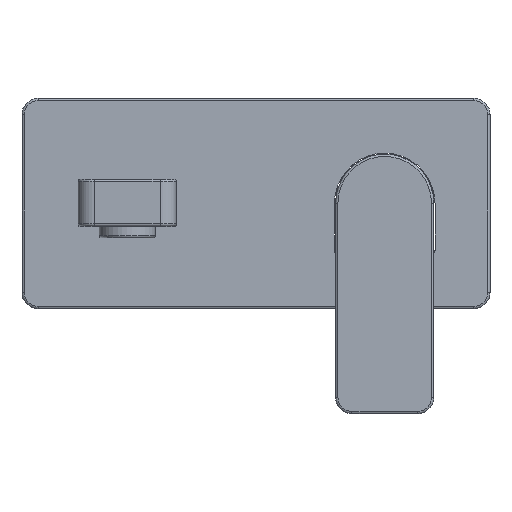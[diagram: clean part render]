
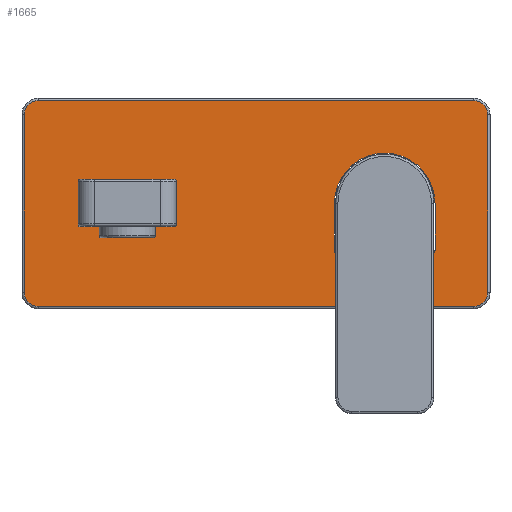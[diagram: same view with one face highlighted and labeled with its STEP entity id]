
A CAD part, top view. The second image highlights one B-rep face of the part: STEP entity #1665.
In plain terms, the highlighted planar face has unit normal (0, 0, 1).
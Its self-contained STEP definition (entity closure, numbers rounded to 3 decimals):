
#14=FACE_BOUND('',#563,.T.);
#66=PLANE('',#1906);
#145=LINE('',#2869,#264);
#149=LINE('',#2881,#268);
#152=LINE('',#2890,#271);
#170=LINE('',#2954,#289);
#172=LINE('',#2966,#291);
#174=LINE('',#2978,#293);
#175=LINE('',#2986,#294);
#264=VECTOR('',#2313,10.);
#268=VECTOR('',#2325,10.);
#271=VECTOR('',#2336,10.);
#289=VECTOR('',#2402,10.);
#291=VECTOR('',#2416,10.);
#293=VECTOR('',#2430,10.);
#294=VECTOR('',#2441,10.);
#455=FACE_OUTER_BOUND('',#562,.T.);
#562=EDGE_LOOP('',(#1498,#1499,#1500,#1501,#1502,#1503,#1504,#1505));
#563=EDGE_LOOP('',(#1506,#1507,#1508,#1509,#1510,#1511));
#652=CIRCLE('',#1849,1.5);
#654=CIRCLE('',#1853,21.5);
#656=CIRCLE('',#1857,1.5);
#666=CIRCLE('',#1878,6.);
#672=CIRCLE('',#1886,6.);
#676=CIRCLE('',#1892,6.);
#680=CIRCLE('',#1898,6.);
#780=VERTEX_POINT('',#2859);
#781=VERTEX_POINT('',#2861);
#783=VERTEX_POINT('',#2867);
#785=VERTEX_POINT('',#2873);
#787=VERTEX_POINT('',#2879);
#789=VERTEX_POINT('',#2885);
#807=VERTEX_POINT('',#2942);
#808=VERTEX_POINT('',#2944);
#810=VERTEX_POINT('',#2950);
#812=VERTEX_POINT('',#2956);
#814=VERTEX_POINT('',#2962);
#816=VERTEX_POINT('',#2968);
#818=VERTEX_POINT('',#2974);
#820=VERTEX_POINT('',#2980);
#988=EDGE_CURVE('',#781,#780,#652,.T.);
#992=EDGE_CURVE('',#780,#783,#145,.T.);
#995=EDGE_CURVE('',#783,#785,#654,.T.);
#998=EDGE_CURVE('',#785,#787,#149,.T.);
#1001=EDGE_CURVE('',#787,#789,#656,.T.);
#1003=EDGE_CURVE('',#789,#781,#152,.T.);
#1029=EDGE_CURVE('',#807,#808,#666,.T.);
#1034=EDGE_CURVE('',#808,#810,#170,.T.);
#1037=EDGE_CURVE('',#810,#812,#672,.T.);
#1040=EDGE_CURVE('',#812,#814,#172,.T.);
#1043=EDGE_CURVE('',#814,#816,#676,.T.);
#1046=EDGE_CURVE('',#816,#818,#174,.T.);
#1049=EDGE_CURVE('',#818,#820,#680,.T.);
#1050=EDGE_CURVE('',#820,#807,#175,.T.);
#1498=ORIENTED_EDGE('',*,*,#1029,.F.);
#1499=ORIENTED_EDGE('',*,*,#1050,.F.);
#1500=ORIENTED_EDGE('',*,*,#1049,.F.);
#1501=ORIENTED_EDGE('',*,*,#1046,.F.);
#1502=ORIENTED_EDGE('',*,*,#1043,.F.);
#1503=ORIENTED_EDGE('',*,*,#1040,.F.);
#1504=ORIENTED_EDGE('',*,*,#1037,.F.);
#1505=ORIENTED_EDGE('',*,*,#1034,.F.);
#1506=ORIENTED_EDGE('',*,*,#995,.T.);
#1507=ORIENTED_EDGE('',*,*,#998,.T.);
#1508=ORIENTED_EDGE('',*,*,#1001,.T.);
#1509=ORIENTED_EDGE('',*,*,#1003,.T.);
#1510=ORIENTED_EDGE('',*,*,#988,.T.);
#1511=ORIENTED_EDGE('',*,*,#992,.T.);
#1665=ADVANCED_FACE('',(#455,#14),#66,.T.);
#1849=AXIS2_PLACEMENT_3D('',#2862,#2306,#2307);
#1853=AXIS2_PLACEMENT_3D('',#2875,#2319,#2320);
#1857=AXIS2_PLACEMENT_3D('',#2887,#2331,#2332);
#1878=AXIS2_PLACEMENT_3D('',#2945,#2391,#2392);
#1886=AXIS2_PLACEMENT_3D('',#2960,#2409,#2410);
#1892=AXIS2_PLACEMENT_3D('',#2972,#2423,#2424);
#1898=AXIS2_PLACEMENT_3D('',#2984,#2437,#2438);
#1906=AXIS2_PLACEMENT_3D('',#3006,#2462,#2463);
#2306=DIRECTION('center_axis',(0.,0.,-1.));
#2307=DIRECTION('ref_axis',(0.,-1.,0.));
#2313=DIRECTION('',(0.,1.,0.));
#2319=DIRECTION('center_axis',(0.,0.,-1.));
#2320=DIRECTION('ref_axis',(-1.,0.,0.));
#2325=DIRECTION('',(0.,-1.,0.));
#2331=DIRECTION('center_axis',(0.,0.,-1.));
#2332=DIRECTION('ref_axis',(1.,0.,0.));
#2336=DIRECTION('',(-1.,0.,0.));
#2391=DIRECTION('center_axis',(0.,0.,-1.));
#2392=DIRECTION('ref_axis',(-0.707,0.707,0.));
#2402=DIRECTION('',(1.,0.,0.));
#2409=DIRECTION('center_axis',(0.,0.,-1.));
#2410=DIRECTION('ref_axis',(0.707,0.707,0.));
#2416=DIRECTION('',(0.,-1.,0.));
#2423=DIRECTION('center_axis',(0.,0.,-1.));
#2424=DIRECTION('ref_axis',(0.707,-0.707,0.));
#2430=DIRECTION('',(-1.,0.,0.));
#2437=DIRECTION('center_axis',(0.,0.,-1.));
#2438=DIRECTION('ref_axis',(-0.707,-0.707,0.));
#2441=DIRECTION('',(0.,1.,0.));
#2462=DIRECTION('center_axis',(0.,0.,1.));
#2463=DIRECTION('ref_axis',(1.,0.,0.));
#2859=CARTESIAN_POINT('',(33.5,-20.,5.));
#2861=CARTESIAN_POINT('',(35.,-21.5,5.));
#2862=CARTESIAN_POINT('Origin',(35.,-20.,5.));
#2867=CARTESIAN_POINT('',(33.5,0.,5.));
#2869=CARTESIAN_POINT('',(33.5,-10.,5.));
#2873=CARTESIAN_POINT('',(76.5,0.,5.));
#2875=CARTESIAN_POINT('Origin',(55.,0.,5.));
#2879=CARTESIAN_POINT('',(76.5,-20.,5.));
#2881=CARTESIAN_POINT('',(76.5,0.,5.));
#2885=CARTESIAN_POINT('',(75.,-21.5,5.));
#2887=CARTESIAN_POINT('Origin',(75.,-20.,5.));
#2890=CARTESIAN_POINT('',(37.5,-21.5,5.));
#2942=CARTESIAN_POINT('',(-99.,38.,5.));
#2944=CARTESIAN_POINT('',(-93.,44.,5.));
#2945=CARTESIAN_POINT('Origin',(-93.,38.,5.));
#2950=CARTESIAN_POINT('',(93.,44.,5.));
#2954=CARTESIAN_POINT('',(50.,44.,5.));
#2956=CARTESIAN_POINT('',(99.,38.,5.));
#2960=CARTESIAN_POINT('Origin',(93.,38.,5.));
#2962=CARTESIAN_POINT('',(99.,-38.,5.));
#2966=CARTESIAN_POINT('',(99.,-22.5,5.));
#2968=CARTESIAN_POINT('',(93.,-44.,5.));
#2972=CARTESIAN_POINT('Origin',(93.,-38.,5.));
#2974=CARTESIAN_POINT('',(-93.,-44.,5.));
#2978=CARTESIAN_POINT('',(-50.,-44.,5.));
#2980=CARTESIAN_POINT('',(-99.,-38.,5.));
#2984=CARTESIAN_POINT('Origin',(-93.,-38.,5.));
#2986=CARTESIAN_POINT('',(-99.,22.5,5.));
#3006=CARTESIAN_POINT('Origin',(0.,0.,5.));
